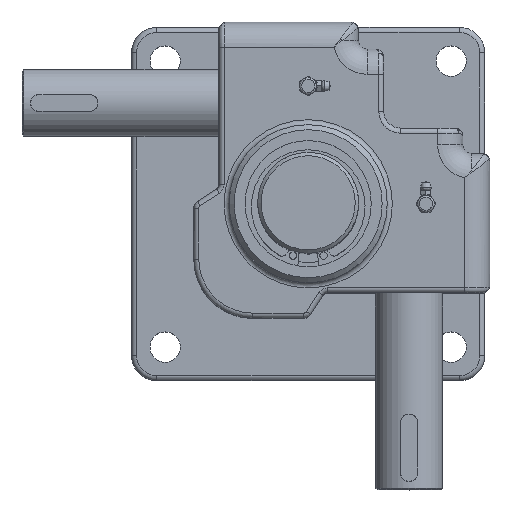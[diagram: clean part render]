
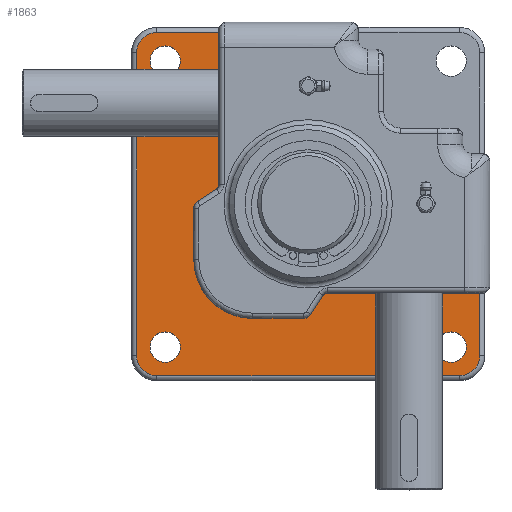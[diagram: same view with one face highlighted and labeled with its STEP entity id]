
A CAD part, top view. The second image highlights one B-rep face of the part: STEP entity #1863.
In plain terms, the highlighted planar face has unit normal (0, 0, 1).
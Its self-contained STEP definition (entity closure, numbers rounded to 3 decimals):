
#1863=ADVANCED_FACE('',(#5157,#5158,#5159,#5160),#5161,.T.);
#5157=FACE_OUTER_BOUND('',#10962,.T.);
#5158=FACE_BOUND('',#10963,.T.);
#5159=FACE_BOUND('',#10964,.T.);
#5160=FACE_BOUND('',#10965,.T.);
#5161=PLANE('',#10966);
#10962=EDGE_LOOP('',(#19542,#19543,#19544,#19545,#19546,#19547,#19548,#19549,#19550,#19551,#19552,#19553,#19554,#19555,#19556,#19557,#19558,#19559));
#10963=EDGE_LOOP('',(#19560));
#10964=EDGE_LOOP('',(#19561));
#10965=EDGE_LOOP('',(#19562));
#10966=AXIS2_PLACEMENT_3D('',#19563,#19564,#19565);
#19542=ORIENTED_EDGE('',*,*,#38492,.T.);
#19543=ORIENTED_EDGE('',*,*,#38493,.T.);
#19544=ORIENTED_EDGE('',*,*,#38494,.T.);
#19545=ORIENTED_EDGE('',*,*,#38495,.T.);
#19546=ORIENTED_EDGE('',*,*,#38496,.T.);
#19547=ORIENTED_EDGE('',*,*,#38497,.T.);
#19548=ORIENTED_EDGE('',*,*,#38498,.T.);
#19549=ORIENTED_EDGE('',*,*,#38499,.F.);
#19550=ORIENTED_EDGE('',*,*,#38500,.T.);
#19551=ORIENTED_EDGE('',*,*,#38501,.T.);
#19552=ORIENTED_EDGE('',*,*,#38143,.F.);
#19553=ORIENTED_EDGE('',*,*,#38502,.F.);
#19554=ORIENTED_EDGE('',*,*,#38503,.F.);
#19555=ORIENTED_EDGE('',*,*,#38504,.F.);
#19556=ORIENTED_EDGE('',*,*,#38505,.F.);
#19557=ORIENTED_EDGE('',*,*,#38506,.F.);
#19558=ORIENTED_EDGE('',*,*,#38507,.T.);
#19559=ORIENTED_EDGE('',*,*,#38508,.T.);
#19560=ORIENTED_EDGE('',*,*,#38509,.F.);
#19561=ORIENTED_EDGE('',*,*,#38510,.F.);
#19562=ORIENTED_EDGE('',*,*,#38511,.F.);
#19563=CARTESIAN_POINT('',(0.0,0.,-55.0));
#19564=DIRECTION('',(0.,0.,1.0));
#19565=DIRECTION('',(1.0,0.,0.));
#38143=EDGE_CURVE('',#45490,#45486,#45492,.T.);
#38492=EDGE_CURVE('',#46136,#46137,#46138,.T.);
#38493=EDGE_CURVE('',#46137,#46139,#46140,.T.);
#38494=EDGE_CURVE('',#46139,#46141,#46142,.T.);
#38495=EDGE_CURVE('',#46141,#46143,#46144,.T.);
#38496=EDGE_CURVE('',#46143,#46145,#46146,.T.);
#38497=EDGE_CURVE('',#46145,#46147,#46148,.T.);
#38498=EDGE_CURVE('',#46147,#46149,#46150,.T.);
#38499=EDGE_CURVE('',#46151,#46149,#46152,.T.);
#38500=EDGE_CURVE('',#46151,#46153,#46154,.T.);
#38501=EDGE_CURVE('',#46153,#45486,#46155,.T.);
#38502=EDGE_CURVE('',#46156,#45490,#46157,.T.);
#38503=EDGE_CURVE('',#46158,#46156,#46159,.T.);
#38504=EDGE_CURVE('',#46160,#46158,#46161,.T.);
#38505=EDGE_CURVE('',#46162,#46160,#46163,.T.);
#38506=EDGE_CURVE('',#46164,#46162,#46165,.T.);
#38507=EDGE_CURVE('',#46164,#46166,#46167,.T.);
#38508=EDGE_CURVE('',#46166,#46136,#46168,.T.);
#38509=EDGE_CURVE('',#46169,#46169,#46170,.T.);
#38510=EDGE_CURVE('',#46171,#46171,#46172,.T.);
#38511=EDGE_CURVE('',#46173,#46173,#46174,.T.);
#45486=VERTEX_POINT('',#57948);
#45490=VERTEX_POINT('',#57953);
#45492=CIRCLE('',#57956,5.0);
#46136=VERTEX_POINT('',#59570);
#46137=VERTEX_POINT('',#59571);
#46138=LINE('',#59572,#59573);
#46139=VERTEX_POINT('',#59574);
#46140=CIRCLE('',#59575,12.0);
#46141=VERTEX_POINT('',#59576);
#46142=LINE('',#59577,#59578);
#46143=VERTEX_POINT('',#59579);
#46144=CIRCLE('',#59580,12.0);
#46145=VERTEX_POINT('',#59581);
#46146=LINE('',#59582,#59583);
#46147=VERTEX_POINT('',#59584);
#46148=CIRCLE('',#59585,12.0);
#46149=VERTEX_POINT('',#59586);
#46150=LINE('',#59587,#59588);
#46151=VERTEX_POINT('',#59589);
#46152=LINE('',#59590,#59591);
#46153=VERTEX_POINT('',#59592);
#46154=CIRCLE('',#59593,3.0);
#46155=LINE('',#59594,#59595);
#46156=VERTEX_POINT('',#59596);
#46157=LINE('',#59597,#59598);
#46158=VERTEX_POINT('',#59599);
#46159=CIRCLE('',#59600,35.0);
#46160=VERTEX_POINT('',#59601);
#46161=LINE('',#59602,#59603);
#46162=VERTEX_POINT('',#59604);
#46163=CIRCLE('',#59605,5.0);
#46164=VERTEX_POINT('',#59606);
#46165=LINE('',#59607,#59608);
#46166=VERTEX_POINT('',#59609);
#46167=CIRCLE('',#59610,3.0);
#46168=LINE('',#59611,#59612);
#46169=VERTEX_POINT('',#59613);
#46170=CIRCLE('',#59614,9.0);
#46171=VERTEX_POINT('',#59615);
#46172=CIRCLE('',#59616,9.0);
#46173=VERTEX_POINT('',#59617);
#46174=CIRCLE('',#59618,9.0);
#57948=CARTESIAN_POINT('',(1.479,-65.723,-55.0));
#57953=CARTESIAN_POINT('',(-2.715,-68.0,-55.0));
#57956=AXIS2_PLACEMENT_3D('',#75819,#75820,#75821);
#59570=CARTESIAN_POINT('',(-53.0,102.0,-55.0));
#59571=CARTESIAN_POINT('',(-90.0,102.0,-55.0));
#59572=CARTESIAN_POINT('',(0.,102.0,-55.0));
#59573=VECTOR('',#76434,1.0);
#59574=CARTESIAN_POINT('',(-102.0,90.,-55.0));
#59575=AXIS2_PLACEMENT_3D('',#76435,#76436,#76437);
#59576=CARTESIAN_POINT('',(-102.0,-90.0,-55.0));
#59577=CARTESIAN_POINT('',(-102.0,0.0,-55.0));
#59578=VECTOR('',#76438,1.0);
#59579=CARTESIAN_POINT('',(-90.,-102.0,-55.0));
#59580=AXIS2_PLACEMENT_3D('',#76439,#76440,#76441);
#59581=CARTESIAN_POINT('',(90.0,-102.0,-55.0));
#59582=CARTESIAN_POINT('',(0.0,-102.0,-55.0));
#59583=VECTOR('',#76442,1.0);
#59584=CARTESIAN_POINT('',(102.0,-90.,-55.0));
#59585=AXIS2_PLACEMENT_3D('',#76443,#76444,#76445);
#59586=CARTESIAN_POINT('',(102.0,-53.0,-55.0));
#59587=CARTESIAN_POINT('',(102.0,0.0,-55.0));
#59588=VECTOR('',#76446,1.0);
#59589=CARTESIAN_POINT('',(11.37,-53.0,-55.0));
#59590=CARTESIAN_POINT('',(56.685,-53.0,-55.0));
#59591=VECTOR('',#76447,1.0);
#59592=CARTESIAN_POINT('',(8.854,-54.366,-55.0));
#59593=AXIS2_PLACEMENT_3D('',#76448,#76449,#76450);
#59594=CARTESIAN_POINT('',(5.166,-60.045,-55.0));
#59595=VECTOR('',#76451,1.0);
#59596=CARTESIAN_POINT('',(-33.0,-68.0,-55.0));
#59597=CARTESIAN_POINT('',(-17.857,-68.0,-55.0));
#59598=VECTOR('',#76452,1.0);
#59599=CARTESIAN_POINT('',(-68.0,-33.0,-55.0));
#59600=AXIS2_PLACEMENT_3D('',#76453,#76454,#76455);
#59601=CARTESIAN_POINT('',(-68.0,-2.715,-55.0));
#59602=CARTESIAN_POINT('',(-68.0,-17.857,-55.0));
#59603=VECTOR('',#76456,1.0);
#59604=CARTESIAN_POINT('',(-65.723,1.479,-55.0));
#59605=AXIS2_PLACEMENT_3D('',#76457,#76458,#76459);
#59606=CARTESIAN_POINT('',(-54.366,8.854,-55.0));
#59607=CARTESIAN_POINT('',(-60.045,5.166,-55.0));
#59608=VECTOR('',#76460,1.0);
#59609=CARTESIAN_POINT('',(-53.0,11.37,-55.0));
#59610=AXIS2_PLACEMENT_3D('',#76461,#76462,#76463);
#59611=CARTESIAN_POINT('',(-53.0,56.685,-55.0));
#59612=VECTOR('',#76464,1.0);
#59613=CARTESIAN_POINT('',(94.0,-85.0,-55.0));
#59614=AXIS2_PLACEMENT_3D('',#76465,#76466,#76467);
#59615=CARTESIAN_POINT('',(-76.0,-85.0,-55.0));
#59616=AXIS2_PLACEMENT_3D('',#76468,#76469,#76470);
#59617=CARTESIAN_POINT('',(-76.0,85.0,-55.0));
#59618=AXIS2_PLACEMENT_3D('',#76471,#76472,#76473);
#75819=CARTESIAN_POINT('',(-2.715,-63.0,-55.0));
#75820=DIRECTION('',(0.,0.,1.0));
#75821=DIRECTION('',(1.0,0.,0.));
#76434=DIRECTION('',(-1.0,0.0,0.));
#76435=CARTESIAN_POINT('',(-90.0,90.0,-55.0));
#76436=DIRECTION('',(0.0,0.0,1.0));
#76437=DIRECTION('',(1.0,0.0,0.0));
#76438=DIRECTION('',(0.0,-1.0,0.));
#76439=CARTESIAN_POINT('',(-90.0,-90.0,-55.0));
#76440=DIRECTION('',(0.0,0.0,1.0));
#76441=DIRECTION('',(1.0,0.0,0.0));
#76442=DIRECTION('',(1.0,0.0,0.));
#76443=CARTESIAN_POINT('',(90.0,-90.0,-55.0));
#76444=DIRECTION('',(0.0,0.0,1.0));
#76445=DIRECTION('',(1.0,0.0,0.0));
#76446=DIRECTION('',(0.0,1.0,0.));
#76447=DIRECTION('',(1.0,0.0,0.));
#76448=CARTESIAN_POINT('',(11.37,-56.0,-55.0));
#76449=DIRECTION('',(0.,0.,1.0));
#76450=DIRECTION('',(1.0,0.,0.));
#76451=DIRECTION('',(-0.545,-0.839,0.));
#76452=DIRECTION('',(1.0,0.0,0.));
#76453=CARTESIAN_POINT('',(-33.0,-33.0,-55.0));
#76454=DIRECTION('',(0.,0.,1.0));
#76455=DIRECTION('',(1.0,0.,0.));
#76456=DIRECTION('',(0.0,-1.0,0.));
#76457=CARTESIAN_POINT('',(-63.0,-2.715,-55.0));
#76458=DIRECTION('',(0.,0.,1.0));
#76459=DIRECTION('',(1.0,0.,0.));
#76460=DIRECTION('',(-0.839,-0.545,0.0));
#76461=CARTESIAN_POINT('',(-56.0,11.37,-55.0));
#76462=DIRECTION('',(0.,0.,1.0));
#76463=DIRECTION('',(1.0,0.,0.));
#76464=DIRECTION('',(0.0,1.0,0.));
#76465=CARTESIAN_POINT('',(85.0,-85.0,-55.0));
#76466=DIRECTION('',(0.,0.,1.0));
#76467=DIRECTION('',(1.0,0.,0.));
#76468=CARTESIAN_POINT('',(-85.0,-85.0,-55.0));
#76469=DIRECTION('',(0.,0.,1.0));
#76470=DIRECTION('',(1.0,0.,0.));
#76471=CARTESIAN_POINT('',(-85.0,85.0,-55.0));
#76472=DIRECTION('',(0.,0.,1.0));
#76473=DIRECTION('',(1.0,0.,0.));
